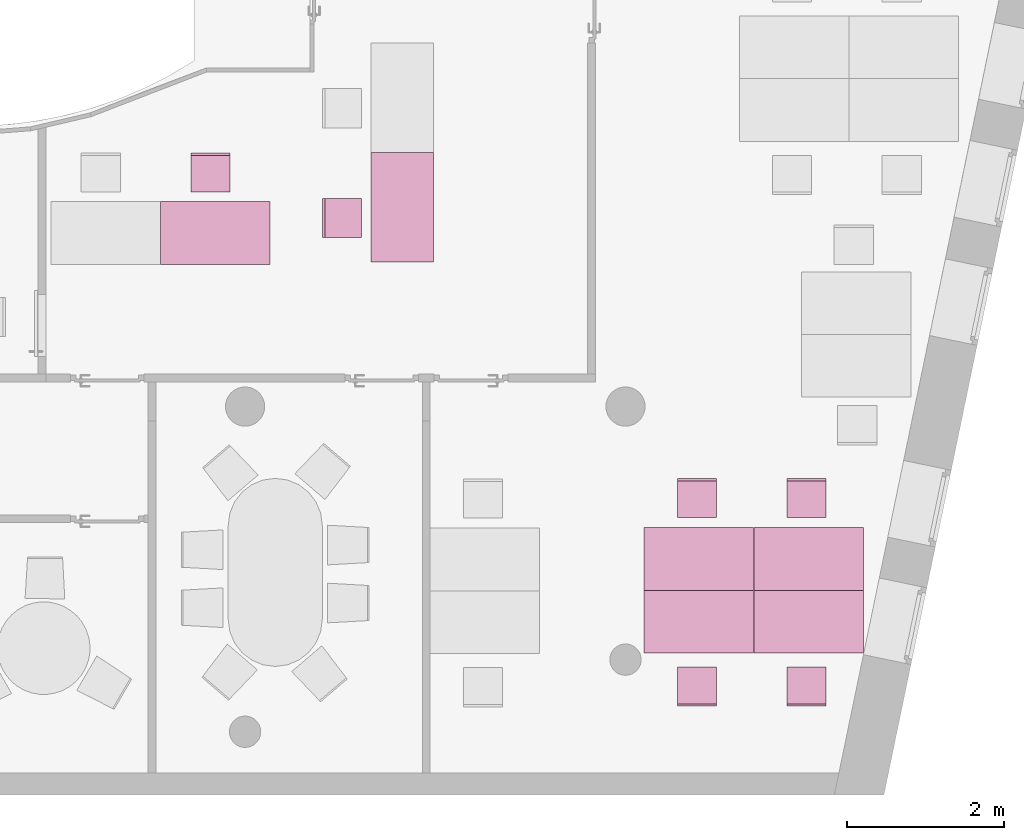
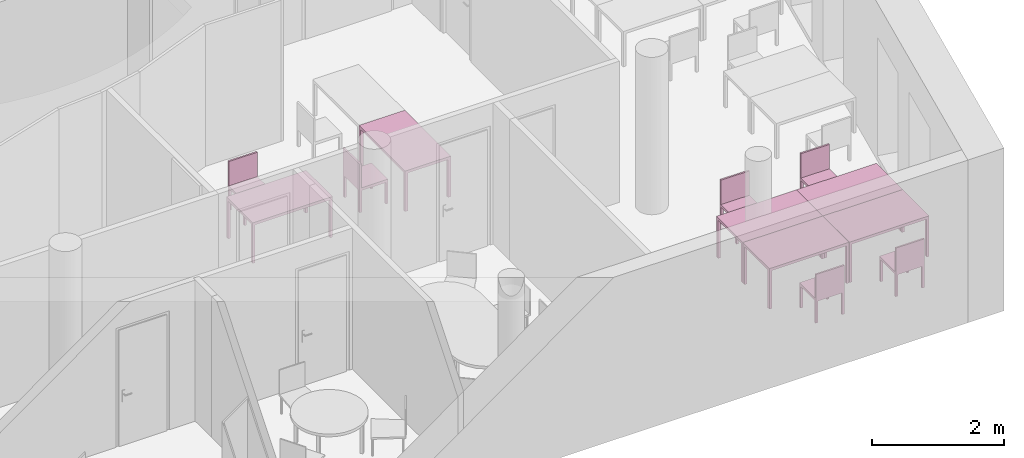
"""IFC4 building model written with IfcOpenShell, lengths in metres."""

from ifc_helpers import new_model, entity, si_unit, converted_unit, derived_unit, frame, origin, place, context, subcontext, project, spatial, faceted_brep, element, save


model = new_model("IFC4")

# Units and contexts
model_context = context("Model", 3, precision=1e-05, world=origin())
body_context = subcontext(model_context, "Body", "Model", "MODEL_VIEW")
ifc_project = project(units=[si_unit("LENGTHUNIT", "METRE"), si_unit("AREAUNIT", "SQUARE_METRE"), si_unit("VOLUMEUNIT", "CUBIC_METRE"), si_unit("MASSUNIT", "GRAM", prefix="KILO"), converted_unit("PLANEANGLEUNIT", "DEGREE", entity("IfcPlaneAngleMeasure", 0.0174532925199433), si_unit("PLANEANGLEUNIT", "RADIAN"), dimensions=[0, 0, 0, 0, 0, 0, 0]), derived_unit("THERMALTRANSMITTANCEUNIT", [(si_unit("POWERUNIT", "WATT"), 1), (si_unit("THERMODYNAMICTEMPERATUREUNIT", "KELVIN"), -1), (si_unit("LENGTHUNIT", "METRE"), -2)]), derived_unit("VOLUMETRICFLOWRATEUNIT", [(si_unit("LENGTHUNIT", "METRE"), 3), (converted_unit("TIMEUNIT", "hour", entity("IfcTimeMeasure", 3600.0), si_unit("TIMEUNIT", "SECOND"), dimensions=[0, 0, 1, 0, 0, 0, 0]), -1), (si_unit("LENGTHUNIT", "METRE"), -1)])], contexts=[model_context])

# Building, storeys
building_placement = place(None, origin())
building = spatial("IfcBuilding", under=ifc_project, at=building_placement, Name="HABITATGE PLURIFAMILIAR", CompositionType="ELEMENT")
storey_1_placement = place(building_placement, frame((0.0, 0.0, 9.26)))
storey_1 = spatial("IfcBuildingStorey", under=building, at=storey_1_placement, Name="PLANTA SEGONA", CompositionType="ELEMENT", Elevation=9.26)
storey_2_placement = place(storey_1_placement, frame((0.0, 0.0, 6.25)))
storey_2 = spatial("IfcBuildingStorey", under=storey_1, at=storey_2_placement, Name="NOU", CompositionType="PARTIAL")

# Furniture
furniture_1_placement = place(storey_2_placement, frame((415.444450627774, 20.5358000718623, -6.34505686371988)))
element("IfcFurniture", 1, at=furniture_1_placement, inside=storey_2, Name="Cadira d'Oficina_P2", context=body_context, shape_type="Brep", body=[
    faceted_brep([(0.5, 0.0, 0.4), (0.5, 0.500000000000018, 0.4), (0.0, 0.5, 0.4), (0.0, 0.0, 0.4), (0.5, 0.500000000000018, 0.45), (0.5, 0.0, 0.45), (0.0, 0.0, 0.45), (0.0, 0.5, 0.45)], [[[0, 1, 2, 3]], [[4, 5, 6, 7]], [[1, 0, 5, 4]], [[2, 1, 4, 7]], [[3, 2, 7, 6]], [[0, 3, 6, 5]]], orient=[[False], [False], [False], [False], [False], [False]]),
    faceted_brep([(0.0, 0.46, 0.0), (0.04, 0.46, 0.0), (0.04, 0.5, 0.0), (0.0, 0.5, 0.0), (0.04, 0.46, 0.4), (0.0, 0.46, 0.4), (0.0, 0.5, 0.4), (0.04, 0.5, 0.4)], [[[0, 1, 2, 3]], [[4, 5, 6, 7]], [[1, 0, 5, 4]], [[2, 1, 4, 7]], [[3, 2, 7, 6]], [[0, 3, 6, 5]]], orient=[[False], [False], [False], [False], [False], [False]]),
    faceted_brep([(0.0, 0.0, 0.0), (0.04, 0.0, 0.0), (0.04, 0.04, 0.0), (0.0, 0.04, 0.0), (0.04, 0.0, 0.4), (0.0, 0.0, 0.4), (0.0, 0.04, 0.4), (0.04, 0.04, 0.4)], [[[0, 1, 2, 3]], [[4, 5, 6, 7]], [[1, 0, 5, 4]], [[2, 1, 4, 7]], [[3, 2, 7, 6]], [[0, 3, 6, 5]]], orient=[[False], [False], [False], [False], [False], [False]]),
    faceted_brep([(0.46, 0.460000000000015, 0.0), (0.5, 0.460000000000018, 0.0), (0.5, 0.500000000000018, 0.0), (0.46, 0.500000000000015, 0.0), (0.5, 0.460000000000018, 0.4), (0.46, 0.460000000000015, 0.4), (0.46, 0.500000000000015, 0.4), (0.5, 0.500000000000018, 0.4)], [[[0, 1, 2, 3]], [[4, 5, 6, 7]], [[1, 0, 5, 4]], [[2, 1, 4, 7]], [[3, 2, 7, 6]], [[0, 3, 6, 5]]], orient=[[False], [False], [False], [False], [False], [False]]),
    faceted_brep([(0.46, 0.0, 0.0), (0.5, 0.0, 0.0), (0.5, 0.0400000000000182, 0.0), (0.46, 0.0400000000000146, 0.0), (0.5, 0.0, 0.4), (0.46, 0.0, 0.4), (0.46, 0.0400000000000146, 0.4), (0.5, 0.0400000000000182, 0.4)], [[[0, 1, 2, 3]], [[4, 5, 6, 7]], [[1, 0, 5, 4]], [[2, 1, 4, 7]], [[3, 2, 7, 6]], [[0, 3, 6, 5]]], orient=[[False], [False], [False], [False], [False], [False]]),
    faceted_brep([(0.0, 0.47, 0.45), (0.5, 0.470000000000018, 0.45), (0.5, 0.500000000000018, 0.45), (0.0, 0.5, 0.45), (0.5, 0.470000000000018, 0.9), (0.0, 0.47, 0.9), (0.0, 0.5, 0.9), (0.5, 0.500000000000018, 0.9)], [[[0, 1, 2, 3]], [[4, 5, 6, 7]], [[1, 0, 5, 4]], [[2, 1, 4, 7]], [[3, 2, 7, 6]], [[0, 3, 6, 5]]], orient=[[False], [False], [False], [False], [False], [False]]),
])
furniture_2_placement = place(storey_2_placement, frame((421.231466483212, 14.6541985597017, -6.3499999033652)))
element("IfcFurniture", 2, at=furniture_2_placement, inside=storey_2, Name="Taula 140X80_P2", context=body_context, shape_type="Brep", body=[
    faceted_brep([(0.04375, 0.750069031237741, 0.0), (0.04375, 0.800069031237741, 0.0), (0.0, 0.800069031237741, 0.0), (0.0, 0.750069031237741, 0.0), (0.04375, 0.800069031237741, 0.7), (0.04375, 0.750069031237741, 0.7), (0.0, 0.750069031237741, 0.7), (0.0, 0.800069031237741, 0.7)], [[[0, 1, 2, 3]], [[4, 5, 6, 7]], [[1, 0, 5, 4]], [[2, 1, 4, 7]], [[3, 2, 7, 6]], [[0, 3, 6, 5]]], orient=[[False], [False], [False], [False], [False], [False]]),
    faceted_brep([(0.04375, 0.0, 0.0), (0.04375, 0.05, 0.0), (0.0, 0.05, 0.0), (0.0, 0.0, 0.0), (0.04375, 0.05, 0.7), (0.04375, 0.0, 0.7), (0.0, 0.0, 0.7), (0.0, 0.05, 0.7)], [[[0, 1, 2, 3]], [[4, 5, 6, 7]], [[1, 0, 5, 4]], [[2, 1, 4, 7]], [[3, 2, 7, 6]], [[0, 3, 6, 5]]], orient=[[False], [False], [False], [False], [False], [False]]),
    faceted_brep([(1.39732768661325, 0.0, 0.7), (1.39732768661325, 0.800069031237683, 0.7), (0.0, 0.800069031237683, 0.7), (0.0, 0.0, 0.7), (1.39732768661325, 0.800069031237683, 0.75), (1.39732768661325, 0.0, 0.75), (0.0, 0.0, 0.75), (0.0, 0.800069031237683, 0.75)], [[[0, 1, 2, 3]], [[4, 5, 6, 7]], [[1, 0, 5, 4]], [[2, 1, 4, 7]], [[3, 2, 7, 6]], [[0, 3, 6, 5]]], orient=[[False], [False], [False], [False], [False], [False]]),
    faceted_brep([(1.39732768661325, 0.750069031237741, 0.0), (1.39732768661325, 0.800069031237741, 0.0), (1.35357768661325, 0.800069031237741, 0.0), (1.35357768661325, 0.750069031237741, 0.0), (1.39732768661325, 0.800069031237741, 0.7), (1.39732768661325, 0.750069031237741, 0.7), (1.35357768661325, 0.750069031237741, 0.7), (1.35357768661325, 0.800069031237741, 0.7)], [[[0, 1, 2, 3]], [[4, 5, 6, 7]], [[1, 0, 5, 4]], [[2, 1, 4, 7]], [[3, 2, 7, 6]], [[0, 3, 6, 5]]], orient=[[False], [False], [False], [False], [False], [False]]),
    faceted_brep([(1.39732768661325, 0.0, 0.0), (1.39732768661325, 0.05, 0.0), (1.35357768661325, 0.05, 0.0), (1.35357768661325, 0.0, 0.0), (1.39732768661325, 0.05, 0.7), (1.39732768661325, 0.0, 0.7), (1.35357768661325, 0.0, 0.7), (1.35357768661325, 0.05, 0.7)], [[[0, 1, 2, 3]], [[4, 5, 6, 7]], [[1, 0, 5, 4]], [[2, 1, 4, 7]], [[3, 2, 7, 6]], [[0, 3, 6, 5]]], orient=[[False], [False], [False], [False], [False], [False]]),
])
furniture_3_placement = place(storey_2_placement, frame((421.231466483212, 15.4542675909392, -6.3499999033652)))
element("IfcFurniture", 3, at=furniture_3_placement, inside=storey_2, Name="Taula 140X80_P2", context=body_context, shape_type="Brep", body=[
    faceted_brep([(0.04375, 0.05, 0.0), (0.0, 0.05, 0.0), (0.0, 0.0, 0.0), (0.04375, 0.0, 0.0), (0.04375, 0.0, 0.7), (0.0, 0.0, 0.7), (0.0, 0.05, 0.7), (0.04375, 0.05, 0.7)], [[[0, 1, 2, 3]], [[4, 5, 6, 7]], [[3, 4, 7, 0]], [[2, 5, 4, 3]], [[1, 6, 5, 2]], [[0, 7, 6, 1]]], orient=[[False], [False], [False], [False], [False], [False]]),
    faceted_brep([(0.04375, 0.800069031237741, 0.0), (0.0, 0.800069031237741, 0.0), (0.0, 0.750069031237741, 0.0), (0.04375, 0.750069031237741, 0.0), (0.04375, 0.750069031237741, 0.7), (0.0, 0.750069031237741, 0.7), (0.0, 0.800069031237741, 0.7), (0.04375, 0.800069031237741, 0.7)], [[[0, 1, 2, 3]], [[4, 5, 6, 7]], [[3, 4, 7, 0]], [[2, 5, 4, 3]], [[1, 6, 5, 2]], [[0, 7, 6, 1]]], orient=[[False], [False], [False], [False], [False], [False]]),
    faceted_brep([(1.39732768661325, 0.800069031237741, 0.7), (0.0, 0.800069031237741, 0.7), (0.0, 0.0, 0.7), (1.39732768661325, 0.0, 0.7), (1.39732768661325, 0.0, 0.75), (0.0, 0.0, 0.75), (0.0, 0.800069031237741, 0.75), (1.39732768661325, 0.800069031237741, 0.75)], [[[0, 1, 2, 3]], [[4, 5, 6, 7]], [[3, 4, 7, 0]], [[2, 5, 4, 3]], [[1, 6, 5, 2]], [[0, 7, 6, 1]]], orient=[[False], [False], [False], [False], [False], [False]]),
    faceted_brep([(1.39732768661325, 0.05, 0.0), (1.35357768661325, 0.05, 0.0), (1.35357768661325, 0.0, 0.0), (1.39732768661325, 0.0, 0.0), (1.39732768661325, 0.0, 0.7), (1.35357768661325, 0.0, 0.7), (1.35357768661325, 0.05, 0.7), (1.39732768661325, 0.05, 0.7)], [[[0, 1, 2, 3]], [[4, 5, 6, 7]], [[3, 4, 7, 0]], [[2, 5, 4, 3]], [[1, 6, 5, 2]], [[0, 7, 6, 1]]], orient=[[False], [False], [False], [False], [False], [False]]),
    faceted_brep([(1.39732768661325, 0.800069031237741, 0.0), (1.35357768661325, 0.800069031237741, 0.0), (1.35357768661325, 0.750069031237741, 0.0), (1.39732768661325, 0.750069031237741, 0.0), (1.39732768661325, 0.750069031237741, 0.7), (1.35357768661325, 0.750069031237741, 0.7), (1.35357768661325, 0.800069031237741, 0.7), (1.39732768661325, 0.800069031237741, 0.7)], [[[0, 1, 2, 3]], [[4, 5, 6, 7]], [[3, 4, 7, 0]], [[2, 5, 4, 3]], [[1, 6, 5, 2]], [[0, 7, 6, 1]]], orient=[[False], [False], [False], [False], [False], [False]]),
])
furniture_4_placement = place(storey_2_placement, frame((422.631466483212, 14.6541985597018, -6.3499999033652)))
element("IfcFurniture", 4, at=furniture_4_placement, inside=storey_2, Name="Taula 140X80_P2", context=body_context, shape_type="Brep", body=[
    faceted_brep([(0.04375, 0.750069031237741, 0.0), (0.04375, 0.800069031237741, 0.0), (0.0, 0.800069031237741, 0.0), (0.0, 0.750069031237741, 0.0), (0.04375, 0.800069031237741, 0.7), (0.04375, 0.750069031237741, 0.7), (0.0, 0.750069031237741, 0.7), (0.0, 0.800069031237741, 0.7)], [[[0, 1, 2, 3]], [[4, 5, 6, 7]], [[1, 0, 5, 4]], [[2, 1, 4, 7]], [[3, 2, 7, 6]], [[0, 3, 6, 5]]], orient=[[False], [False], [False], [False], [False], [False]]),
    faceted_brep([(0.04375, 0.0, 0.0), (0.04375, 0.05, 0.0), (0.0, 0.05, 0.0), (0.0, 0.0, 0.0), (0.04375, 0.05, 0.7), (0.04375, 0.0, 0.7), (0.0, 0.0, 0.7), (0.0, 0.05, 0.7)], [[[0, 1, 2, 3]], [[4, 5, 6, 7]], [[1, 0, 5, 4]], [[2, 1, 4, 7]], [[3, 2, 7, 6]], [[0, 3, 6, 5]]], orient=[[False], [False], [False], [False], [False], [False]]),
    faceted_brep([(1.39732768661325, 0.0, 0.7), (1.39732768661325, 0.800069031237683, 0.7), (0.0, 0.800069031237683, 0.7), (0.0, 0.0, 0.7), (1.39732768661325, 0.800069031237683, 0.75), (1.39732768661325, 0.0, 0.75), (0.0, 0.0, 0.75), (0.0, 0.800069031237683, 0.75)], [[[0, 1, 2, 3]], [[4, 5, 6, 7]], [[1, 0, 5, 4]], [[2, 1, 4, 7]], [[3, 2, 7, 6]], [[0, 3, 6, 5]]], orient=[[False], [False], [False], [False], [False], [False]]),
    faceted_brep([(1.39732768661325, 0.750069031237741, 0.0), (1.39732768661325, 0.800069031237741, 0.0), (1.35357768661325, 0.800069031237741, 0.0), (1.35357768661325, 0.750069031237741, 0.0), (1.39732768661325, 0.800069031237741, 0.7), (1.39732768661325, 0.750069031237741, 0.7), (1.35357768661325, 0.750069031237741, 0.7), (1.35357768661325, 0.800069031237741, 0.7)], [[[0, 1, 2, 3]], [[4, 5, 6, 7]], [[1, 0, 5, 4]], [[2, 1, 4, 7]], [[3, 2, 7, 6]], [[0, 3, 6, 5]]], orient=[[False], [False], [False], [False], [False], [False]]),
    faceted_brep([(1.39732768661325, 0.0, 0.0), (1.39732768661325, 0.05, 0.0), (1.35357768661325, 0.05, 0.0), (1.35357768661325, 0.0, 0.0), (1.39732768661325, 0.05, 0.7), (1.39732768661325, 0.0, 0.7), (1.35357768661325, 0.0, 0.7), (1.35357768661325, 0.05, 0.7)], [[[0, 1, 2, 3]], [[4, 5, 6, 7]], [[1, 0, 5, 4]], [[2, 1, 4, 7]], [[3, 2, 7, 6]], [[0, 3, 6, 5]]], orient=[[False], [False], [False], [False], [False], [False]]),
])
furniture_5_placement = place(storey_2_placement, frame((422.631466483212, 15.4542675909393, -6.3499999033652)))
element("IfcFurniture", 5, at=furniture_5_placement, inside=storey_2, Name="Taula 140X80_P2", context=body_context, shape_type="Brep", body=[
    faceted_brep([(0.04375, 0.05, 0.0), (0.0, 0.05, 0.0), (0.0, 0.0, 0.0), (0.04375, 0.0, 0.0), (0.04375, 0.0, 0.7), (0.0, 0.0, 0.7), (0.0, 0.05, 0.7), (0.04375, 0.05, 0.7)], [[[0, 1, 2, 3]], [[4, 5, 6, 7]], [[3, 4, 7, 0]], [[2, 5, 4, 3]], [[1, 6, 5, 2]], [[0, 7, 6, 1]]], orient=[[False], [False], [False], [False], [False], [False]]),
    faceted_brep([(0.04375, 0.800069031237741, 0.0), (0.0, 0.800069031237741, 0.0), (0.0, 0.750069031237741, 0.0), (0.04375, 0.750069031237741, 0.0), (0.04375, 0.750069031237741, 0.7), (0.0, 0.750069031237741, 0.7), (0.0, 0.800069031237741, 0.7), (0.04375, 0.800069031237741, 0.7)], [[[0, 1, 2, 3]], [[4, 5, 6, 7]], [[3, 4, 7, 0]], [[2, 5, 4, 3]], [[1, 6, 5, 2]], [[0, 7, 6, 1]]], orient=[[False], [False], [False], [False], [False], [False]]),
    faceted_brep([(1.39732768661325, 0.800069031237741, 0.7), (0.0, 0.800069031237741, 0.7), (0.0, 0.0, 0.7), (1.39732768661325, 0.0, 0.7), (1.39732768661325, 0.0, 0.75), (0.0, 0.0, 0.75), (0.0, 0.800069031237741, 0.75), (1.39732768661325, 0.800069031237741, 0.75)], [[[0, 1, 2, 3]], [[4, 5, 6, 7]], [[3, 4, 7, 0]], [[2, 5, 4, 3]], [[1, 6, 5, 2]], [[0, 7, 6, 1]]], orient=[[False], [False], [False], [False], [False], [False]]),
    faceted_brep([(1.39732768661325, 0.05, 0.0), (1.35357768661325, 0.05, 0.0), (1.35357768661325, 0.0, 0.0), (1.39732768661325, 0.0, 0.0), (1.39732768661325, 0.0, 0.7), (1.35357768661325, 0.0, 0.7), (1.35357768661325, 0.05, 0.7), (1.39732768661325, 0.05, 0.7)], [[[0, 1, 2, 3]], [[4, 5, 6, 7]], [[3, 4, 7, 0]], [[2, 5, 4, 3]], [[1, 6, 5, 2]], [[0, 7, 6, 1]]], orient=[[False], [False], [False], [False], [False], [False]]),
    faceted_brep([(1.39732768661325, 0.800069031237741, 0.0), (1.35357768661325, 0.800069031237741, 0.0), (1.35357768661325, 0.750069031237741, 0.0), (1.39732768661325, 0.750069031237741, 0.0), (1.39732768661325, 0.750069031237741, 0.7), (1.35357768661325, 0.750069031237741, 0.7), (1.35357768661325, 0.800069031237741, 0.7), (1.39732768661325, 0.800069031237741, 0.7)], [[[0, 1, 2, 3]], [[4, 5, 6, 7]], [[3, 4, 7, 0]], [[2, 5, 4, 3]], [[1, 6, 5, 2]], [[0, 7, 6, 1]]], orient=[[False], [False], [False], [False], [False], [False]]),
])
furniture_6_placement = place(storey_2_placement, frame((421.653453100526, 13.9750827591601, -6.34632642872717)))
element("IfcFurniture", 6, at=furniture_6_placement, inside=storey_2, Name="Cadira d'Oficina_P2", context=body_context, shape_type="Brep", body=[
    faceted_brep([(0.5, 0.5, 0.4), (0.0, 0.500000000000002, 0.4), (0.0, 0.0, 0.4), (0.5, 0.0, 0.4), (0.5, 0.0, 0.45), (0.0, 0.0, 0.45), (0.0, 0.500000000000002, 0.45), (0.5, 0.5, 0.45)], [[[0, 1, 2, 3]], [[4, 5, 6, 7]], [[3, 4, 7, 0]], [[2, 5, 4, 3]], [[1, 6, 5, 2]], [[0, 7, 6, 1]]], orient=[[False], [False], [False], [False], [False], [False]]),
    faceted_brep([(0.0, 0.0400000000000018, 0.0), (0.0, 0.0, 0.0), (0.04, 0.0, 0.0), (0.04, 0.0400000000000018, 0.0), (0.04, 0.0400000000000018, 0.4), (0.04, 0.0, 0.4), (0.0, 0.0, 0.4), (0.0, 0.0400000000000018, 0.4)], [[[0, 1, 2, 3]], [[4, 5, 6, 7]], [[3, 4, 7, 0]], [[2, 5, 4, 3]], [[1, 6, 5, 2]], [[0, 7, 6, 1]]], orient=[[False], [False], [False], [False], [False], [False]]),
    faceted_brep([(0.0, 0.500000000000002, 0.0), (0.0, 0.460000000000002, 0.0), (0.04, 0.460000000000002, 0.0), (0.04, 0.500000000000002, 0.0), (0.04, 0.500000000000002, 0.4), (0.04, 0.460000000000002, 0.4), (0.0, 0.460000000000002, 0.4), (0.0, 0.500000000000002, 0.4)], [[[0, 1, 2, 3]], [[4, 5, 6, 7]], [[3, 4, 7, 0]], [[2, 5, 4, 3]], [[1, 6, 5, 2]], [[0, 7, 6, 1]]], orient=[[False], [False], [False], [False], [False], [False]]),
    faceted_brep([(0.46, 0.04, 0.0), (0.46, 0.0, 0.0), (0.5, 0.0, 0.0), (0.5, 0.04, 0.0), (0.5, 0.04, 0.4), (0.5, 0.0, 0.4), (0.46, 0.0, 0.4), (0.46, 0.04, 0.4)], [[[0, 1, 2, 3]], [[4, 5, 6, 7]], [[3, 4, 7, 0]], [[2, 5, 4, 3]], [[1, 6, 5, 2]], [[0, 7, 6, 1]]], orient=[[False], [False], [False], [False], [False], [False]]),
    faceted_brep([(0.46, 0.5, 0.0), (0.46, 0.46, 0.0), (0.5, 0.46, 0.0), (0.5, 0.5, 0.0), (0.5, 0.5, 0.4), (0.5, 0.46, 0.4), (0.46, 0.46, 0.4), (0.46, 0.5, 0.4)], [[[0, 1, 2, 3]], [[4, 5, 6, 7]], [[3, 4, 7, 0]], [[2, 5, 4, 3]], [[1, 6, 5, 2]], [[0, 7, 6, 1]]], orient=[[False], [False], [False], [False], [False], [False]]),
    faceted_brep([(0.0, 0.0300000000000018, 0.45), (0.0, 0.0, 0.45), (0.5, 0.0, 0.45), (0.5, 0.03, 0.45), (0.5, 0.03, 0.9), (0.5, 0.0, 0.9), (0.0, 0.0, 0.9), (0.0, 0.0300000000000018, 0.9)], [[[0, 1, 2, 3]], [[4, 5, 6, 7]], [[3, 4, 7, 0]], [[2, 5, 4, 3]], [[1, 6, 5, 2]], [[0, 7, 6, 1]]], orient=[[False], [False], [False], [False], [False], [False]]),
])
furniture_7_placement = place(storey_2_placement, frame((423.053453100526, 13.9750827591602, -6.34632642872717)))
element("IfcFurniture", 7, at=furniture_7_placement, inside=storey_2, Name="Cadira d'Oficina_P2", context=body_context, shape_type="Brep", body=[
    faceted_brep([(0.5, 0.5, 0.4), (0.0, 0.500000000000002, 0.4), (0.0, 0.0, 0.4), (0.5, 0.0, 0.4), (0.5, 0.0, 0.45), (0.0, 0.0, 0.45), (0.0, 0.500000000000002, 0.45), (0.5, 0.5, 0.45)], [[[0, 1, 2, 3]], [[4, 5, 6, 7]], [[3, 4, 7, 0]], [[2, 5, 4, 3]], [[1, 6, 5, 2]], [[0, 7, 6, 1]]], orient=[[False], [False], [False], [False], [False], [False]]),
    faceted_brep([(0.0, 0.0400000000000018, 0.0), (0.0, 0.0, 0.0), (0.04, 0.0, 0.0), (0.04, 0.0400000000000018, 0.0), (0.04, 0.0400000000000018, 0.4), (0.04, 0.0, 0.4), (0.0, 0.0, 0.4), (0.0, 0.0400000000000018, 0.4)], [[[0, 1, 2, 3]], [[4, 5, 6, 7]], [[3, 4, 7, 0]], [[2, 5, 4, 3]], [[1, 6, 5, 2]], [[0, 7, 6, 1]]], orient=[[False], [False], [False], [False], [False], [False]]),
    faceted_brep([(0.0, 0.500000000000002, 0.0), (0.0, 0.460000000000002, 0.0), (0.04, 0.460000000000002, 0.0), (0.04, 0.500000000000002, 0.0), (0.04, 0.500000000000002, 0.4), (0.04, 0.460000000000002, 0.4), (0.0, 0.460000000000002, 0.4), (0.0, 0.500000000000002, 0.4)], [[[0, 1, 2, 3]], [[4, 5, 6, 7]], [[3, 4, 7, 0]], [[2, 5, 4, 3]], [[1, 6, 5, 2]], [[0, 7, 6, 1]]], orient=[[False], [False], [False], [False], [False], [False]]),
    faceted_brep([(0.46, 0.04, 0.0), (0.46, 0.0, 0.0), (0.5, 0.0, 0.0), (0.5, 0.04, 0.0), (0.5, 0.04, 0.4), (0.5, 0.0, 0.4), (0.46, 0.0, 0.4), (0.46, 0.04, 0.4)], [[[0, 1, 2, 3]], [[4, 5, 6, 7]], [[3, 4, 7, 0]], [[2, 5, 4, 3]], [[1, 6, 5, 2]], [[0, 7, 6, 1]]], orient=[[False], [False], [False], [False], [False], [False]]),
    faceted_brep([(0.46, 0.5, 0.0), (0.46, 0.46, 0.0), (0.5, 0.46, 0.0), (0.5, 0.5, 0.0), (0.5, 0.5, 0.4), (0.5, 0.46, 0.4), (0.46, 0.46, 0.4), (0.46, 0.5, 0.4)], [[[0, 1, 2, 3]], [[4, 5, 6, 7]], [[3, 4, 7, 0]], [[2, 5, 4, 3]], [[1, 6, 5, 2]], [[0, 7, 6, 1]]], orient=[[False], [False], [False], [False], [False], [False]]),
    faceted_brep([(0.0, 0.0300000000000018, 0.45), (0.0, 0.0, 0.45), (0.5, 0.0, 0.45), (0.5, 0.03, 0.45), (0.5, 0.03, 0.9), (0.5, 0.0, 0.9), (0.0, 0.0, 0.9), (0.0, 0.0300000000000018, 0.9)], [[[0, 1, 2, 3]], [[4, 5, 6, 7]], [[3, 4, 7, 0]], [[2, 5, 4, 3]], [[1, 6, 5, 2]], [[0, 7, 6, 1]]], orient=[[False], [False], [False], [False], [False], [False]]),
])
furniture_8_placement = place(storey_2_placement, frame((421.653453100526, 16.3815713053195, -6.34505686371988)))
element("IfcFurniture", 8, at=furniture_8_placement, inside=storey_2, Name="Cadira d'Oficina_P2", context=body_context, shape_type="Brep", body=[
    faceted_brep([(0.5, 0.0, 0.4), (0.5, 0.50000000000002, 0.4), (0.0, 0.500000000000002, 0.4), (0.0, 0.0, 0.4), (0.5, 0.50000000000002, 0.45), (0.5, 0.0, 0.45), (0.0, 0.0, 0.45), (0.0, 0.500000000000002, 0.45)], [[[0, 1, 2, 3]], [[4, 5, 6, 7]], [[1, 0, 5, 4]], [[2, 1, 4, 7]], [[3, 2, 7, 6]], [[0, 3, 6, 5]]], orient=[[False], [False], [False], [False], [False], [False]]),
    faceted_brep([(0.0, 0.460000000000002, 0.0), (0.04, 0.460000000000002, 0.0), (0.04, 0.500000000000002, 0.0), (0.0, 0.500000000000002, 0.0), (0.04, 0.460000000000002, 0.4), (0.0, 0.460000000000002, 0.4), (0.0, 0.500000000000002, 0.4), (0.04, 0.500000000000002, 0.4)], [[[0, 1, 2, 3]], [[4, 5, 6, 7]], [[1, 0, 5, 4]], [[2, 1, 4, 7]], [[3, 2, 7, 6]], [[0, 3, 6, 5]]], orient=[[False], [False], [False], [False], [False], [False]]),
    faceted_brep([(0.0, 0.0, 0.0), (0.04, 0.0, 0.0), (0.04, 0.0400000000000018, 0.0), (0.0, 0.0400000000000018, 0.0), (0.04, 0.0, 0.4), (0.0, 0.0, 0.4), (0.0, 0.0400000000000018, 0.4), (0.04, 0.0400000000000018, 0.4)], [[[0, 1, 2, 3]], [[4, 5, 6, 7]], [[1, 0, 5, 4]], [[2, 1, 4, 7]], [[3, 2, 7, 6]], [[0, 3, 6, 5]]], orient=[[False], [False], [False], [False], [False], [False]]),
    faceted_brep([(0.46, 0.460000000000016, 0.0), (0.5, 0.46000000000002, 0.0), (0.5, 0.50000000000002, 0.0), (0.46, 0.500000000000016, 0.0), (0.5, 0.46000000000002, 0.4), (0.46, 0.460000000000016, 0.4), (0.46, 0.500000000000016, 0.4), (0.5, 0.50000000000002, 0.4)], [[[0, 1, 2, 3]], [[4, 5, 6, 7]], [[1, 0, 5, 4]], [[2, 1, 4, 7]], [[3, 2, 7, 6]], [[0, 3, 6, 5]]], orient=[[False], [False], [False], [False], [False], [False]]),
    faceted_brep([(0.46, 0.0, 0.0), (0.5, 0.0, 0.0), (0.5, 0.04000000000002, 0.0), (0.46, 0.0400000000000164, 0.0), (0.5, 0.0, 0.4), (0.46, 0.0, 0.4), (0.46, 0.0400000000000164, 0.4), (0.5, 0.04000000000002, 0.4)], [[[0, 1, 2, 3]], [[4, 5, 6, 7]], [[1, 0, 5, 4]], [[2, 1, 4, 7]], [[3, 2, 7, 6]], [[0, 3, 6, 5]]], orient=[[False], [False], [False], [False], [False], [False]]),
    faceted_brep([(0.0, 0.470000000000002, 0.45), (0.5, 0.47000000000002, 0.45), (0.5, 0.50000000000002, 0.45), (0.0, 0.500000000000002, 0.45), (0.5, 0.47000000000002, 0.9), (0.0, 0.470000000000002, 0.9), (0.0, 0.500000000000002, 0.9), (0.5, 0.50000000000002, 0.9)], [[[0, 1, 2, 3]], [[4, 5, 6, 7]], [[1, 0, 5, 4]], [[2, 1, 4, 7]], [[3, 2, 7, 6]], [[0, 3, 6, 5]]], orient=[[False], [False], [False], [False], [False], [False]]),
])
furniture_9_placement = place(storey_2_placement, frame((423.053453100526, 16.3815713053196, -6.34505686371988)))
element("IfcFurniture", 9, at=furniture_9_placement, inside=storey_2, Name="Cadira d'Oficina_P2", context=body_context, shape_type="Brep", body=[
    faceted_brep([(0.5, 0.0, 0.4), (0.5, 0.50000000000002, 0.4), (0.0, 0.500000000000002, 0.4), (0.0, 0.0, 0.4), (0.5, 0.50000000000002, 0.45), (0.5, 0.0, 0.45), (0.0, 0.0, 0.45), (0.0, 0.500000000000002, 0.45)], [[[0, 1, 2, 3]], [[4, 5, 6, 7]], [[1, 0, 5, 4]], [[2, 1, 4, 7]], [[3, 2, 7, 6]], [[0, 3, 6, 5]]], orient=[[False], [False], [False], [False], [False], [False]]),
    faceted_brep([(0.0, 0.460000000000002, 0.0), (0.04, 0.460000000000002, 0.0), (0.04, 0.500000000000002, 0.0), (0.0, 0.500000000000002, 0.0), (0.04, 0.460000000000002, 0.4), (0.0, 0.460000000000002, 0.4), (0.0, 0.500000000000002, 0.4), (0.04, 0.500000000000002, 0.4)], [[[0, 1, 2, 3]], [[4, 5, 6, 7]], [[1, 0, 5, 4]], [[2, 1, 4, 7]], [[3, 2, 7, 6]], [[0, 3, 6, 5]]], orient=[[False], [False], [False], [False], [False], [False]]),
    faceted_brep([(0.0, 0.0, 0.0), (0.04, 0.0, 0.0), (0.04, 0.0400000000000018, 0.0), (0.0, 0.0400000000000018, 0.0), (0.04, 0.0, 0.4), (0.0, 0.0, 0.4), (0.0, 0.0400000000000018, 0.4), (0.04, 0.0400000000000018, 0.4)], [[[0, 1, 2, 3]], [[4, 5, 6, 7]], [[1, 0, 5, 4]], [[2, 1, 4, 7]], [[3, 2, 7, 6]], [[0, 3, 6, 5]]], orient=[[False], [False], [False], [False], [False], [False]]),
    faceted_brep([(0.46, 0.460000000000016, 0.0), (0.5, 0.46000000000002, 0.0), (0.5, 0.50000000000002, 0.0), (0.46, 0.500000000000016, 0.0), (0.5, 0.46000000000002, 0.4), (0.46, 0.460000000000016, 0.4), (0.46, 0.500000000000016, 0.4), (0.5, 0.50000000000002, 0.4)], [[[0, 1, 2, 3]], [[4, 5, 6, 7]], [[1, 0, 5, 4]], [[2, 1, 4, 7]], [[3, 2, 7, 6]], [[0, 3, 6, 5]]], orient=[[False], [False], [False], [False], [False], [False]]),
    faceted_brep([(0.46, 0.0, 0.0), (0.5, 0.0, 0.0), (0.5, 0.04000000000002, 0.0), (0.46, 0.0400000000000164, 0.0), (0.5, 0.0, 0.4), (0.46, 0.0, 0.4), (0.46, 0.0400000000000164, 0.4), (0.5, 0.04000000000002, 0.4)], [[[0, 1, 2, 3]], [[4, 5, 6, 7]], [[1, 0, 5, 4]], [[2, 1, 4, 7]], [[3, 2, 7, 6]], [[0, 3, 6, 5]]], orient=[[False], [False], [False], [False], [False], [False]]),
    faceted_brep([(0.0, 0.470000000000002, 0.45), (0.5, 0.47000000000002, 0.45), (0.5, 0.50000000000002, 0.45), (0.0, 0.500000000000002, 0.45), (0.5, 0.47000000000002, 0.9), (0.0, 0.470000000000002, 0.9), (0.0, 0.500000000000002, 0.9), (0.5, 0.50000000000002, 0.9)], [[[0, 1, 2, 3]], [[4, 5, 6, 7]], [[1, 0, 5, 4]], [[2, 1, 4, 7]], [[3, 2, 7, 6]], [[0, 3, 6, 5]]], orient=[[False], [False], [False], [False], [False], [False]]),
])
furniture_10_placement = place(storey_2_placement, frame((415.058444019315, 19.6152143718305, -6.3499999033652)))
element("IfcFurniture", 10, at=furniture_10_placement, inside=storey_2, Name="Taula 140X80_P2", context=body_context, shape_type="Brep", body=[
    faceted_brep([(0.04375, 0.750069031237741, 0.0), (0.04375, 0.800069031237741, 0.0), (0.0, 0.800069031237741, 0.0), (0.0, 0.750069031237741, 0.0), (0.04375, 0.800069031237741, 0.7), (0.04375, 0.750069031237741, 0.7), (0.0, 0.750069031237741, 0.7), (0.0, 0.800069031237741, 0.7)], [[[0, 1, 2, 3]], [[4, 5, 6, 7]], [[1, 0, 5, 4]], [[2, 1, 4, 7]], [[3, 2, 7, 6]], [[0, 3, 6, 5]]], orient=[[False], [False], [False], [False], [False], [False]]),
    faceted_brep([(0.04375, 0.0, 0.0), (0.04375, 0.05, 0.0), (0.0, 0.05, 0.0), (0.0, 0.0, 0.0), (0.04375, 0.05, 0.7), (0.04375, 0.0, 0.7), (0.0, 0.0, 0.7), (0.0, 0.05, 0.7)], [[[0, 1, 2, 3]], [[4, 5, 6, 7]], [[1, 0, 5, 4]], [[2, 1, 4, 7]], [[3, 2, 7, 6]], [[0, 3, 6, 5]]], orient=[[False], [False], [False], [False], [False], [False]]),
    faceted_brep([(1.39732768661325, 0.0, 0.7), (1.39732768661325, 0.800069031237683, 0.7), (0.0, 0.800069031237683, 0.7), (0.0, 0.0, 0.7), (1.39732768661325, 0.800069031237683, 0.75), (1.39732768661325, 0.0, 0.75), (0.0, 0.0, 0.75), (0.0, 0.800069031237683, 0.75)], [[[0, 1, 2, 3]], [[4, 5, 6, 7]], [[1, 0, 5, 4]], [[2, 1, 4, 7]], [[3, 2, 7, 6]], [[0, 3, 6, 5]]], orient=[[False], [False], [False], [False], [False], [False]]),
    faceted_brep([(1.39732768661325, 0.750069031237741, 0.0), (1.39732768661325, 0.800069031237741, 0.0), (1.35357768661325, 0.800069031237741, 0.0), (1.35357768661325, 0.750069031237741, 0.0), (1.39732768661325, 0.800069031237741, 0.7), (1.39732768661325, 0.750069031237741, 0.7), (1.35357768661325, 0.750069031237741, 0.7), (1.35357768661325, 0.800069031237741, 0.7)], [[[0, 1, 2, 3]], [[4, 5, 6, 7]], [[1, 0, 5, 4]], [[2, 1, 4, 7]], [[3, 2, 7, 6]], [[0, 3, 6, 5]]], orient=[[False], [False], [False], [False], [False], [False]]),
    faceted_brep([(1.39732768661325, 0.0, 0.0), (1.39732768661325, 0.05, 0.0), (1.35357768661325, 0.05, 0.0), (1.35357768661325, 0.0, 0.0), (1.39732768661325, 0.05, 0.7), (1.39732768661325, 0.0, 0.7), (1.35357768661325, 0.0, 0.7), (1.35357768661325, 0.05, 0.7)], [[[0, 1, 2, 3]], [[4, 5, 6, 7]], [[1, 0, 5, 4]], [[2, 1, 4, 7]], [[3, 2, 7, 6]], [[0, 3, 6, 5]]], orient=[[False], [False], [False], [False], [False], [False]]),
])
furniture_11_placement = place(storey_2_placement, frame((417.742107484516, 19.6438098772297, -6.3499999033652)))
element("IfcFurniture", 11, at=furniture_11_placement, inside=storey_2, Name="Taula 140X80_P2", context=body_context, shape_type="Brep", body=[
    faceted_brep([(0.0500000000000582, 1.35357768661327, 0.0), (0.0500000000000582, 1.39732768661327, 0.0), (0.0, 1.39732768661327, 0.0), (0.0, 1.35357768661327, 0.0), (0.0, 1.35357768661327, 0.7), (0.0, 1.39732768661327, 0.7), (0.0500000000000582, 1.39732768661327, 0.7), (0.0500000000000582, 1.35357768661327, 0.7)], [[[0, 1, 2, 3]], [[4, 5, 6, 7]], [[3, 4, 7, 0]], [[2, 5, 4, 3]], [[1, 6, 5, 2]], [[0, 7, 6, 1]]], orient=[[False], [False], [False], [False], [False], [False]]),
    faceted_brep([(0.800069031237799, 1.35357768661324, 0.0), (0.800069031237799, 1.39732768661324, 0.0), (0.750069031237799, 1.39732768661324, 0.0), (0.750069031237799, 1.35357768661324, 0.0), (0.750069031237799, 1.35357768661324, 0.7), (0.750069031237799, 1.39732768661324, 0.7), (0.800069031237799, 1.39732768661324, 0.7), (0.800069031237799, 1.35357768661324, 0.7)], [[[0, 1, 2, 3]], [[4, 5, 6, 7]], [[3, 4, 7, 0]], [[2, 5, 4, 3]], [[1, 6, 5, 2]], [[0, 7, 6, 1]]], orient=[[False], [False], [False], [False], [False], [False]]),
    faceted_brep([(0.800069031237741, 0.0, 0.7), (0.800069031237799, 1.39732768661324, 0.7), (0.0, 1.39732768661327, 0.7), (0.0, 0.0, 0.7), (0.0, 0.0, 0.75), (0.0, 1.39732768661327, 0.75), (0.800069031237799, 1.39732768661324, 0.75), (0.800069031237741, 0.0, 0.75)], [[[0, 1, 2, 3]], [[4, 5, 6, 7]], [[3, 4, 7, 0]], [[2, 5, 4, 3]], [[1, 6, 5, 2]], [[0, 7, 6, 1]]], orient=[[False], [False], [False], [False], [False], [False]]),
    faceted_brep([(0.05, 0.0, 0.0), (0.05, 0.0437500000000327, 0.0), (0.0, 0.0437500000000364, 0.0), (0.0, 0.0, 0.0), (0.0, 0.0, 0.7), (0.0, 0.0437500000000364, 0.7), (0.05, 0.0437500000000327, 0.7), (0.05, 0.0, 0.7)], [[[0, 1, 2, 3]], [[4, 5, 6, 7]], [[3, 4, 7, 0]], [[2, 5, 4, 3]], [[1, 6, 5, 2]], [[0, 7, 6, 1]]], orient=[[False], [False], [False], [False], [False], [False]]),
    faceted_brep([(0.800069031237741, 0.0, 0.0), (0.800069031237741, 0.0437499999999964, 0.0), (0.750069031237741, 0.04375, 0.0), (0.750069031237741, 0.0, 0.0), (0.750069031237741, 0.0, 0.7), (0.750069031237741, 0.04375, 0.7), (0.800069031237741, 0.0437499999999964, 0.7), (0.800069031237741, 0.0, 0.7)], [[[0, 1, 2, 3]], [[4, 5, 6, 7]], [[3, 4, 7, 0]], [[2, 5, 4, 3]], [[1, 6, 5, 2]], [[0, 7, 6, 1]]], orient=[[False], [False], [False], [False], [False], [False]]),
])
furniture_12_placement = place(storey_2_placement, frame((417.124256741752, 19.9566209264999, -6.34505686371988)))
element("IfcFurniture", 12, at=furniture_12_placement, inside=storey_2, Name="Cadira d'Oficina_P2", context=body_context, shape_type="Brep", body=[
    faceted_brep([(0.5, 0.0, 0.4), (0.5, 0.500000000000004, 0.4), (0.0, 0.500000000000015, 0.4), (0.0, 0.0, 0.4), (0.0, 0.0, 0.45), (0.0, 0.500000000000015, 0.45), (0.5, 0.500000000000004, 0.45), (0.5, 0.0, 0.45)], [[[0, 1, 2, 3]], [[4, 5, 6, 7]], [[3, 4, 7, 0]], [[2, 5, 4, 3]], [[1, 6, 5, 2]], [[0, 7, 6, 1]]], orient=[[False], [False], [False], [False], [False], [False]]),
    faceted_brep([(0.04, 0.500000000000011, 0.0), (0.0, 0.500000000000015, 0.0), (0.0, 0.460000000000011, 0.0), (0.04, 0.460000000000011, 0.0), (0.04, 0.460000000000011, 0.4), (0.0, 0.460000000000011, 0.4), (0.0, 0.500000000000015, 0.4), (0.04, 0.500000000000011, 0.4)], [[[0, 1, 2, 3]], [[4, 5, 6, 7]], [[3, 4, 7, 0]], [[2, 5, 4, 3]], [[1, 6, 5, 2]], [[0, 7, 6, 1]]], orient=[[False], [False], [False], [False], [False], [False]]),
    faceted_brep([(0.5, 0.500000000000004, 0.0), (0.46, 0.500000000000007, 0.0), (0.46, 0.460000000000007, 0.0), (0.5, 0.460000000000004, 0.0), (0.5, 0.460000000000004, 0.4), (0.46, 0.460000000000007, 0.4), (0.46, 0.500000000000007, 0.4), (0.5, 0.500000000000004, 0.4)], [[[0, 1, 2, 3]], [[4, 5, 6, 7]], [[3, 4, 7, 0]], [[2, 5, 4, 3]], [[1, 6, 5, 2]], [[0, 7, 6, 1]]], orient=[[False], [False], [False], [False], [False], [False]]),
    faceted_brep([(0.04, 0.0400000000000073, 0.0), (0.0, 0.0400000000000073, 0.0), (0.0, 0.0, 0.0), (0.04, 0.0, 0.0), (0.04, 0.0, 0.4), (0.0, 0.0, 0.4), (0.0, 0.0400000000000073, 0.4), (0.04, 0.0400000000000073, 0.4)], [[[0, 1, 2, 3]], [[4, 5, 6, 7]], [[3, 4, 7, 0]], [[2, 5, 4, 3]], [[1, 6, 5, 2]], [[0, 7, 6, 1]]], orient=[[False], [False], [False], [False], [False], [False]]),
    faceted_brep([(0.5, 0.04, 0.0), (0.46, 0.04, 0.0), (0.46, 0.0, 0.0), (0.5, 0.0, 0.0), (0.5, 0.0, 0.4), (0.46, 0.0, 0.4), (0.46, 0.04, 0.4), (0.5, 0.04, 0.4)], [[[0, 1, 2, 3]], [[4, 5, 6, 7]], [[3, 4, 7, 0]], [[2, 5, 4, 3]], [[1, 6, 5, 2]], [[0, 7, 6, 1]]], orient=[[False], [False], [False], [False], [False], [False]]),
    faceted_brep([(0.03, 0.500000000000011, 0.45), (0.0, 0.500000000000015, 0.45), (0.0, 0.0, 0.45), (0.03, 0.0, 0.45), (0.03, 0.0, 0.9), (0.0, 0.0, 0.9), (0.0, 0.500000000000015, 0.9), (0.03, 0.500000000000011, 0.9)], [[[0, 1, 2, 3]], [[4, 5, 6, 7]], [[3, 4, 7, 0]], [[2, 5, 4, 3]], [[1, 6, 5, 2]], [[0, 7, 6, 1]]], orient=[[False], [False], [False], [False], [False], [False]]),
])

save(model, "model.ifc")
